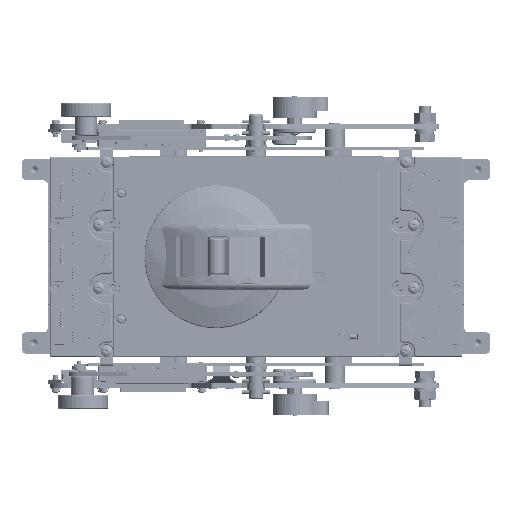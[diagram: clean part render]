
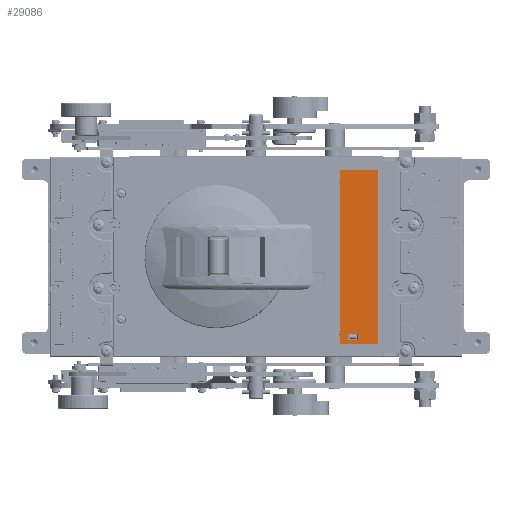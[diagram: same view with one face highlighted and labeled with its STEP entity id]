
A CAD part, top view. The second image highlights one B-rep face of the part: STEP entity #29086.
In plain terms, the highlighted planar face has unit normal (0, 0, 1).
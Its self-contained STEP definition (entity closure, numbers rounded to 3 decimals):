
#11246=FACE_BOUND('',#67271,.T.);
#11247=FACE_BOUND('',#67272,.T.);
#18164=CIRCLE('',#283831,0.3);
#18165=CIRCLE('',#283832,0.3);
#29086=ADVANCED_FACE('',(#11246,#11247),#43529,.T.);
#43529=PLANE('',#283833);
#67271=EDGE_LOOP('',(#94906,#94907,#94908,#94909,#94910,#94911,#94912,#94913,
#94914,#94915));
#67272=EDGE_LOOP('',(#94916,#94917,#94918,#94919));
#94906=ORIENTED_EDGE('',*,*,#194174,.T.);
#94907=ORIENTED_EDGE('',*,*,#189789,.T.);
#94908=ORIENTED_EDGE('',*,*,#194173,.T.);
#94909=ORIENTED_EDGE('',*,*,#189806,.T.);
#94910=ORIENTED_EDGE('',*,*,#194172,.F.);
#94911=ORIENTED_EDGE('',*,*,#194175,.F.);
#94912=ORIENTED_EDGE('',*,*,#194176,.T.);
#94913=ORIENTED_EDGE('',*,*,#194177,.F.);
#94914=ORIENTED_EDGE('',*,*,#194178,.T.);
#94915=ORIENTED_EDGE('',*,*,#194179,.F.);
#94916=ORIENTED_EDGE('',*,*,#194180,.F.);
#94917=ORIENTED_EDGE('',*,*,#194181,.T.);
#94918=ORIENTED_EDGE('',*,*,#194182,.T.);
#94919=ORIENTED_EDGE('',*,*,#194183,.F.);
#163736=VERTEX_POINT('',#389188);
#163737=VERTEX_POINT('',#389190);
#163747=VERTEX_POINT('',#389215);
#163749=VERTEX_POINT('',#389220);
#166408=VERTEX_POINT('',#400920);
#166409=VERTEX_POINT('',#400926);
#166410=VERTEX_POINT('',#400928);
#166411=VERTEX_POINT('',#400930);
#166412=VERTEX_POINT('',#400932);
#166413=VERTEX_POINT('',#400934);
#166414=VERTEX_POINT('',#400937);
#166415=VERTEX_POINT('',#400938);
#166416=VERTEX_POINT('',#400940);
#166417=VERTEX_POINT('',#400942);
#189789=EDGE_CURVE('',#163737,#163736,#228601,.T.);
#189806=EDGE_CURVE('',#163747,#163749,#228615,.T.);
#194172=EDGE_CURVE('',#166408,#163749,#231399,.T.);
#194173=EDGE_CURVE('',#163736,#163747,#231400,.T.);
#194174=EDGE_CURVE('',#166409,#163737,#231401,.T.);
#194175=EDGE_CURVE('',#166410,#166408,#231402,.T.);
#194176=EDGE_CURVE('',#166410,#166411,#18164,.T.);
#194177=EDGE_CURVE('',#166412,#166411,#231403,.T.);
#194178=EDGE_CURVE('',#166412,#166413,#18165,.T.);
#194179=EDGE_CURVE('',#166409,#166413,#231404,.T.);
#194180=EDGE_CURVE('',#166414,#166415,#231405,.T.);
#194181=EDGE_CURVE('',#166414,#166416,#231406,.T.);
#194182=EDGE_CURVE('',#166416,#166417,#231407,.T.);
#194183=EDGE_CURVE('',#166415,#166417,#231408,.T.);
#228601=LINE('',#389189,#255052);
#228615=LINE('',#389221,#255066);
#231399=LINE('',#400921,#257889);
#231400=LINE('',#400923,#257890);
#231401=LINE('',#400925,#257891);
#231402=LINE('',#400927,#257892);
#231403=LINE('',#400931,#257893);
#231404=LINE('',#400935,#257894);
#231405=LINE('',#400936,#257895);
#231406=LINE('',#400939,#257896);
#231407=LINE('',#400941,#257897);
#231408=LINE('',#400943,#257898);
#255052=VECTOR('',#309164,1.);
#255066=VECTOR('',#309188,1.);
#257889=VECTOR('',#317889,1.);
#257890=VECTOR('',#317892,1.);
#257891=VECTOR('',#317895,1.);
#257892=VECTOR('',#317896,1.);
#257893=VECTOR('',#317899,1.);
#257894=VECTOR('',#317902,1.);
#257895=VECTOR('',#317903,1.);
#257896=VECTOR('',#317904,1.);
#257897=VECTOR('',#317905,1.);
#257898=VECTOR('',#317906,1.);
#283831=AXIS2_PLACEMENT_3D('',#400929,#317897,#317898);
#283832=AXIS2_PLACEMENT_3D('',#400933,#317900,#317901);
#283833=AXIS2_PLACEMENT_3D('',#400944,#317907,#317908);
#309164=DIRECTION('',(1.,0.,0.));
#309188=DIRECTION('',(-1.,0.,0.));
#317889=DIRECTION('',(0.,1.,0.));
#317892=DIRECTION('',(0.,1.,0.));
#317895=DIRECTION('',(0.,-1.,0.));
#317896=DIRECTION('',(1.,0.,0.));
#317897=DIRECTION('',(0.,0.,1.));
#317898=DIRECTION('',(0.,1.,0.));
#317899=DIRECTION('',(0.,1.,0.));
#317900=DIRECTION('',(0.,0.,1.));
#317901=DIRECTION('',(0.,1.,0.));
#317902=DIRECTION('',(-1.,0.,0.));
#317903=DIRECTION('',(0.,-1.,0.));
#317904=DIRECTION('',(1.,0.,0.));
#317905=DIRECTION('',(0.,-1.,0.));
#317906=DIRECTION('',(1.,0.,0.));
#317907=DIRECTION('',(0.,0.,1.));
#317908=DIRECTION('',(0.,1.,0.));
#389188=CARTESIAN_POINT('',(230.712,6.502,209.898));
#389189=CARTESIAN_POINT('',(231.512,6.502,209.898));
#389190=CARTESIAN_POINT('',(230.416,6.502,209.898));
#389215=CARTESIAN_POINT('',(230.712,128.502,209.898));
#389220=CARTESIAN_POINT('',(230.416,128.502,209.898));
#389221=CARTESIAN_POINT('',(231.512,128.502,209.898));
#400920=CARTESIAN_POINT('',(230.416,128.252,209.898));
#400921=CARTESIAN_POINT('',(230.416,128.252,209.898));
#400923=CARTESIAN_POINT('',(230.712,67.502,209.898));
#400925=CARTESIAN_POINT('',(230.416,6.752,209.898));
#400926=CARTESIAN_POINT('',(230.416,6.752,209.898));
#400927=CARTESIAN_POINT('',(215.712,128.252,209.898));
#400928=CARTESIAN_POINT('',(204.162,128.252,209.898));
#400929=CARTESIAN_POINT('',(204.162,127.952,209.898));
#400930=CARTESIAN_POINT('',(203.862,127.952,209.898));
#400931=CARTESIAN_POINT('',(203.862,67.502,209.898));
#400932=CARTESIAN_POINT('',(203.862,7.052,209.898));
#400933=CARTESIAN_POINT('',(204.162,7.052,209.898));
#400934=CARTESIAN_POINT('',(204.162,6.752,209.898));
#400935=CARTESIAN_POINT('',(215.712,6.752,209.898));
#400936=CARTESIAN_POINT('',(210.062,13.502,209.898));
#400937=CARTESIAN_POINT('',(210.062,13.502,209.898));
#400938=CARTESIAN_POINT('',(210.062,9.502,209.898));
#400939=CARTESIAN_POINT('',(210.062,13.502,209.898));
#400940=CARTESIAN_POINT('',(217.062,13.502,209.898));
#400941=CARTESIAN_POINT('',(217.062,13.502,209.898));
#400942=CARTESIAN_POINT('',(217.062,9.502,209.898));
#400943=CARTESIAN_POINT('',(210.062,9.502,209.898));
#400944=CARTESIAN_POINT('',(215.712,67.502,209.898));
